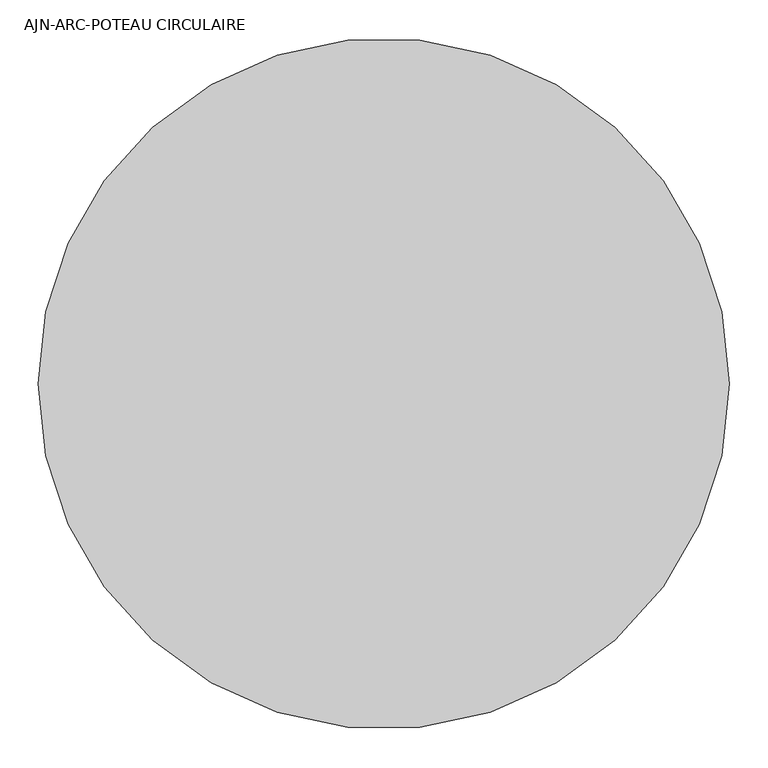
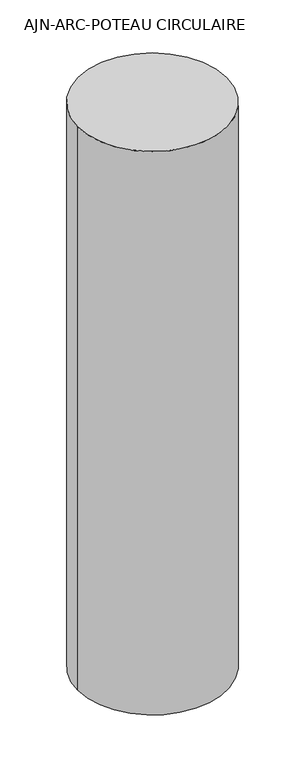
"""IFC4 building model written with IfcOpenShell, lengths in millimetres: column geometry, AJN-ARC-POTEAU CIRCULAIRE : ø90."""

from ifc_helpers import new_model, si_unit, point, frame, origin, origin_2d, place, context, project, spatial, circle_curve, trimmed, segment, composite_curve, outline, extrude, source, transform, mapped, element, save


def ajn_arc_poteau_circulaire_d1b7cf26(model_context):
    return source(origin(), model_context, "Body", "SweptSolid", [
        extrude(outline(composite_curve([segment(trimmed(circle_curve(origin_2d(), 450.0), [point((-450.0, 0.0))], [point((450.0, 0.0))], False, "CARTESIAN"), True, "CONTINUOUS"), segment(trimmed(circle_curve(origin_2d(), 450.0), [point((450.0, 0.0))], [point((-450.0, 0.0))], False, "CARTESIAN"), True, "CONTINUOUS")], self_intersect=False)), frame((0.0, 0.0, 24399.9999686), z_axis=(0.0, 0.0, 1.0), x_axis=(1.0, 0.0, 0.0)), (0.0, 0.0, 1.0), 3600.0),
    ])


if __name__ == "__main__":
    model = new_model("IFC4")
    model_context = context("Model", 3, world=origin())
    ifc_project = project(units=[si_unit("LENGTHUNIT", "METRE", prefix="MILLI")], contexts=[model_context])
    site = spatial("IfcSite", under=ifc_project)
    building = spatial("IfcBuilding", under=site)
    placement = place(None, origin())
    ajn_arc_poteau_circulaire_shape = ajn_arc_poteau_circulaire_d1b7cf26(model_context)
    element("IfcColumn", 1, ObjectType="AJN-ARC-POTEAU CIRCULAIRE : ø90", at=placement, inside=building, context=model_context, shape_type="MappedRepresentation", body=[
        mapped(ajn_arc_poteau_circulaire_shape, transform((0.0, 0.0, 0.0), x_axis=(1.0, 0.0, 0.0), y_axis=(0.0, 1.0, 0.0), z_axis=(0.0, 0.0, 1.0))),
    ])
    save(model, "model.ifc")
